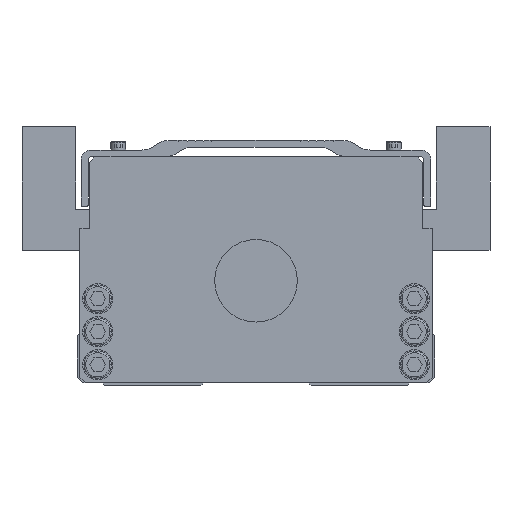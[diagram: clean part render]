
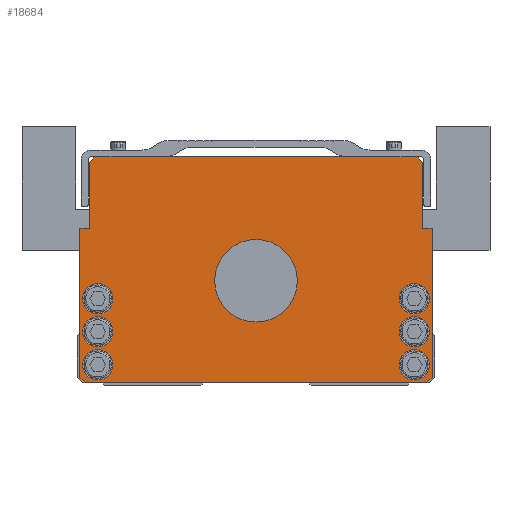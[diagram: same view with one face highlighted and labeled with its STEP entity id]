
A CAD part, front view. The second image highlights one B-rep face of the part: STEP entity #18684.
In plain terms, the highlighted planar face has unit normal (0, -1, 0).
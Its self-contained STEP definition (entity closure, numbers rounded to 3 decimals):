
#6554=EDGE_CURVE('',#9340,#13200,#19490,.T.);
#7284=VERTEX_POINT('',#20287);
#7496=EDGE_CURVE('',#17408,#7542,#20544,.T.);
#7542=VERTEX_POINT('',#20594);
#8048=EDGE_CURVE('',#17514,#16604,#21155,.T.);
#8078=VERTEX_POINT('',#21194);
#8092=EDGE_CURVE('',#17434,#13444,#21209,.T.);
#8252=VERTEX_POINT('',#21382);
#8260=EDGE_CURVE('',#17886,#8252,#21392,.T.);
#8360=VERTEX_POINT('',#21505);
#8414=VERTEX_POINT('',#21565);
#8482=VERTEX_POINT('',#21641);
#8978=EDGE_CURVE('',#11430,#17434,#22191,.T.);
#9004=VERTEX_POINT('',#22221);
#9006=EDGE_CURVE('',#16446,#11430,#22223,.T.);
#9076=EDGE_CURVE('',#8482,#13376,#22309,.T.);
#9340=VERTEX_POINT('',#22608);
#9346=EDGE_CURVE('',#13444,#8078,#22614,.T.);
#9924=EDGE_CURVE('',#13200,#11876,#23264,.T.);
#10094=EDGE_CURVE('',#13466,#9004,#23453,.T.);
#10352=EDGE_CURVE('',#13166,#15318,#23737,.T.);
#11398=EDGE_CURVE('',#9004,#7284,#24920,.T.);
#11430=VERTEX_POINT('',#24953);
#11568=VERTEX_POINT('',#25112);
#11876=VERTEX_POINT('',#25446);
#12994=VERTEX_POINT('',#26677);
#13010=EDGE_CURVE('',#8252,#17886,#26693,.T.);
#13012=EDGE_CURVE('',#7542,#17408,#26695,.T.);
#13166=VERTEX_POINT('',#26868);
#13200=VERTEX_POINT('',#26907);
#13376=VERTEX_POINT('',#27115);
#13444=VERTEX_POINT('',#27191);
#13466=VERTEX_POINT('',#27217);
#13474=EDGE_CURVE('',#15112,#16446,#27226,.T.);
#13542=EDGE_CURVE('',#14398,#8360,#27298,.T.);
#13864=EDGE_CURVE('',#8414,#15112,#27649,.T.);
#14164=EDGE_CURVE('',#13376,#8482,#27976,.T.);
#14174=VERTEX_POINT('',#27987);
#14266=EDGE_CURVE('',#16604,#17514,#28084,.T.);
#14398=VERTEX_POINT('',#28228);
#14956=EDGE_CURVE('',#11568,#8414,#28849,.T.);
#15112=VERTEX_POINT('',#29017);
#15318=VERTEX_POINT('',#29255);
#16128=EDGE_CURVE('',#15318,#13166,#30149,.T.);
#16446=VERTEX_POINT('',#30499);
#16510=EDGE_CURVE('',#8360,#14398,#30571,.T.);
#16604=VERTEX_POINT('',#30682);
#17192=EDGE_CURVE('',#7284,#11568,#31332,.T.);
#17408=VERTEX_POINT('',#31573);
#17434=VERTEX_POINT('',#31601);
#17514=VERTEX_POINT('',#31691);
#17860=EDGE_CURVE('',#8078,#9340,#32067,.T.);
#17886=VERTEX_POINT('',#32097);
#18372=EDGE_CURVE('',#12994,#14174,#32635,.T.);
#18684=ADVANCED_FACE('',(#32981,#32982,#32983,#32984,#32985,#32986,#32987,#32988),#32989,.T.);
#19146=EDGE_CURVE('',#11876,#13466,#33509,.T.);
#19260=EDGE_CURVE('',#14174,#12994,#33636,.T.);
#19490=LINE('',#33905,#33906);
#20287=CARTESIAN_POINT('',(-33.25,0.0,83.0));
#20544=CIRCLE('',#35361,5.5);
#20594=CARTESIAN_POINT('',(-52.0,0.0,19.5));
#21155=CIRCLE('',#36219,5.5);
#21194=CARTESIAN_POINT('',(-62.0,0.0,1.0));
#21209=LINE('',#36292,#36293);
#21382=CARTESIAN_POINT('',(-15.0,0.0,38.0));
#21392=CIRCLE('',#36535,15.0);
#21505=CARTESIAN_POINT('',(52.0,0.0,19.5));
#21565=CARTESIAN_POINT('',(58.5,0.0,83.0));
#21641=CARTESIAN_POINT('',(-52.0,0.0,7.5));
#22191=LINE('',#37622,#37623);
#22221=CARTESIAN_POINT('',(-58.5,0.0,83.0));
#22223=LINE('',#37661,#37662);
#22309=CIRCLE('',#37782,5.5);
#22608=CARTESIAN_POINT('',(-64.0,0.0,3.0));
#22614=LINE('',#38194,#38195);
#23264=LINE('',#39077,#39078);
#23453=LINE('',#39339,#39340);
#23737=CIRCLE('',#39725,5.5);
#24920=LINE('',#41344,#41345);
#24953=CARTESIAN_POINT('',(64.0,0.0,57.0));
#25112=CARTESIAN_POINT('',(33.25,0.0,83.0));
#25446=CARTESIAN_POINT('',(-60.5,0.0,57.0));
#26677=CARTESIAN_POINT('',(63.0,0.0,7.5));
#26693=CIRCLE('',#43858,15.0);
#26695=CIRCLE('',#43861,5.5);
#26868=CARTESIAN_POINT('',(-52.0,0.0,31.5));
#26907=CARTESIAN_POINT('',(-64.0,0.0,57.0));
#27115=CARTESIAN_POINT('',(-63.0,0.0,7.5));
#27191=CARTESIAN_POINT('',(62.0,0.0,1.0));
#27217=CARTESIAN_POINT('',(-60.5,0.0,81.0));
#27226=LINE('',#44606,#44607);
#27298=CIRCLE('',#44707,5.5);
#27649=LINE('',#45189,#45190);
#27976=CIRCLE('',#45635,5.5);
#27987=CARTESIAN_POINT('',(52.0,0.0,7.5));
#28084=CIRCLE('',#45781,5.5);
#28228=CARTESIAN_POINT('',(63.0,0.0,19.5));
#28849=LINE('',#46812,#46813);
#29017=CARTESIAN_POINT('',(60.5,0.0,81.0));
#29255=CARTESIAN_POINT('',(-63.0,0.0,31.5));
#30149=CIRCLE('',#48669,5.5);
#30499=CARTESIAN_POINT('',(60.5,0.0,57.0));
#30571=CIRCLE('',#49266,5.5);
#30682=CARTESIAN_POINT('',(52.0,0.0,31.5));
#31332=LINE('',#50312,#50313);
#31573=CARTESIAN_POINT('',(-63.0,0.0,19.5));
#31601=CARTESIAN_POINT('',(64.0,0.0,3.0));
#31691=CARTESIAN_POINT('',(63.0,0.0,31.5));
#32067=LINE('',#51318,#51319);
#32097=CARTESIAN_POINT('',(15.0,0.0,38.0));
#32635=CIRCLE('',#52102,5.5);
#32981=FACE_BOUND('',#52565,.T.);
#32982=FACE_BOUND('',#52566,.T.);
#32983=FACE_BOUND('',#52567,.T.);
#32984=FACE_BOUND('',#52568,.T.);
#32985=FACE_BOUND('',#52569,.T.);
#32986=FACE_BOUND('',#52570,.T.);
#32987=FACE_BOUND('',#52571,.T.);
#32988=FACE_OUTER_BOUND('',#52572,.T.);
#32989=PLANE('',#52573);
#33509=LINE('',#53276,#53277);
#33636=CIRCLE('',#53465,5.5);
#33905=CARTESIAN_POINT('',(-64.0,0.0,57.0));
#33906=VECTOR('',#53749,1.0);
#35361=AXIS2_PLACEMENT_3D('',#54986,#54987,#54988);
#36219=AXIS2_PLACEMENT_3D('',#55621,#55622,#55623);
#36292=CARTESIAN_POINT('',(62.0,0.0,1.0));
#36293=VECTOR('',#55709,1.);
#36535=AXIS2_PLACEMENT_3D('',#55897,#55898,#55899);
#37622=CARTESIAN_POINT('',(64.0,0.0,3.0));
#37623=VECTOR('',#56836,1.0);
#37661=CARTESIAN_POINT('',(64.0,0.0,57.0));
#37662=VECTOR('',#56879,1.0);
#37782=AXIS2_PLACEMENT_3D('',#57030,#57031,#57032);
#38194=CARTESIAN_POINT('',(-62.0,0.0,1.0));
#38195=VECTOR('',#57326,1.0);
#39077=CARTESIAN_POINT('',(-60.5,0.0,57.0));
#39078=VECTOR('',#58083,1.0);
#39339=CARTESIAN_POINT('',(-58.5,0.0,83.0));
#39340=VECTOR('',#58281,1.);
#39725=AXIS2_PLACEMENT_3D('',#58595,#58596,#58597);
#41344=CARTESIAN_POINT('',(58.5,0.0,83.0));
#41345=VECTOR('',#60076,1.0);
#43858=AXIS2_PLACEMENT_3D('',#62010,#62011,#62012);
#43861=AXIS2_PLACEMENT_3D('',#62013,#62014,#62015);
#44606=CARTESIAN_POINT('',(60.5,0.0,57.0));
#44607=VECTOR('',#62718,1.0);
#44707=AXIS2_PLACEMENT_3D('',#62788,#62789,#62790);
#45189=CARTESIAN_POINT('',(60.5,0.0,81.0));
#45190=VECTOR('',#63161,1.);
#45635=AXIS2_PLACEMENT_3D('',#63501,#63502,#63503);
#45781=AXIS2_PLACEMENT_3D('',#63602,#63603,#63604);
#46812=CARTESIAN_POINT('',(58.5,0.0,83.0));
#46813=VECTOR('',#64476,1.0);
#48669=AXIS2_PLACEMENT_3D('',#65997,#65998,#65999);
#49266=AXIS2_PLACEMENT_3D('',#66479,#66480,#66481);
#50312=CARTESIAN_POINT('',(58.5,0.0,83.0));
#50313=VECTOR('',#67364,1.0);
#51318=CARTESIAN_POINT('',(-64.0,0.0,3.0));
#51319=VECTOR('',#68139,1.);
#52102=AXIS2_PLACEMENT_3D('',#68766,#68767,#68768);
#52565=EDGE_LOOP('',(#69186,#69187));
#52566=EDGE_LOOP('',(#69188,#69189));
#52567=EDGE_LOOP('',(#69190,#69191));
#52568=EDGE_LOOP('',(#69192,#69193));
#52569=EDGE_LOOP('',(#69194,#69195));
#52570=EDGE_LOOP('',(#69196,#69197));
#52571=EDGE_LOOP('',(#69198,#69199));
#52572=EDGE_LOOP('',(#69200,#69201,#69202,#69203,#69204,#69205,#69206,#69207,#69208,#69209,#69210,#69211,#69212,#69213));
#52573=AXIS2_PLACEMENT_3D('',#69214,#69215,#69216);
#53276=CARTESIAN_POINT('',(-60.5,0.0,81.0));
#53277=VECTOR('',#69860,1.0);
#53465=AXIS2_PLACEMENT_3D('',#69999,#70000,#70001);
#53749=DIRECTION('',(0.0,0.0,1.0));
#54986=CARTESIAN_POINT('',(-57.5,0.0,19.5));
#54987=DIRECTION('',(-0.0,1.0,0.0));
#54988=DIRECTION('',(1.0,0.0,0.0));
#55621=CARTESIAN_POINT('',(57.5,0.0,31.5));
#55622=DIRECTION('',(-0.0,1.0,0.0));
#55623=DIRECTION('',(1.0,0.0,0.0));
#55709=DIRECTION('',(-0.707,0.0,-0.707));
#55897=CARTESIAN_POINT('',(0.0,0.0,38.0));
#55898=DIRECTION('',(-0.0,1.0,0.0));
#55899=DIRECTION('',(1.0,0.0,0.0));
#56836=DIRECTION('',(-0.0,0.0,-1.0));
#56879=DIRECTION('',(1.0,0.0,0.0));
#57030=CARTESIAN_POINT('',(-57.5,0.0,7.5));
#57031=DIRECTION('',(-0.0,1.0,0.0));
#57032=DIRECTION('',(1.0,0.0,0.0));
#57326=DIRECTION('',(-1.0,0.0,-0.0));
#58083=DIRECTION('',(1.0,0.0,0.0));
#58281=DIRECTION('',(0.707,0.0,0.707));
#58595=CARTESIAN_POINT('',(-57.5,0.0,31.5));
#58596=DIRECTION('',(-0.0,1.0,0.0));
#58597=DIRECTION('',(1.0,0.0,0.0));
#60076=DIRECTION('',(1.0,0.0,0.0));
#62010=CARTESIAN_POINT('',(0.0,0.0,38.0));
#62011=DIRECTION('',(-0.0,1.0,0.0));
#62012=DIRECTION('',(1.0,0.0,0.0));
#62013=CARTESIAN_POINT('',(-57.5,0.0,19.5));
#62014=DIRECTION('',(-0.0,1.0,0.0));
#62015=DIRECTION('',(1.0,0.0,0.0));
#62718=DIRECTION('',(-0.0,0.0,-1.0));
#62788=CARTESIAN_POINT('',(57.5,0.0,19.5));
#62789=DIRECTION('',(-0.0,1.0,0.0));
#62790=DIRECTION('',(1.0,0.0,0.0));
#63161=DIRECTION('',(0.707,0.0,-0.707));
#63501=CARTESIAN_POINT('',(-57.5,0.0,7.5));
#63502=DIRECTION('',(-0.0,1.0,0.0));
#63503=DIRECTION('',(1.0,0.0,0.0));
#63602=CARTESIAN_POINT('',(57.5,0.0,31.5));
#63603=DIRECTION('',(-0.0,1.0,0.0));
#63604=DIRECTION('',(1.0,0.0,0.0));
#64476=DIRECTION('',(1.0,0.0,0.0));
#65997=CARTESIAN_POINT('',(-57.5,0.0,31.5));
#65998=DIRECTION('',(-0.0,1.0,0.0));
#65999=DIRECTION('',(1.0,0.0,0.0));
#66479=CARTESIAN_POINT('',(57.5,0.0,19.5));
#66480=DIRECTION('',(-0.0,1.0,0.0));
#66481=DIRECTION('',(1.0,0.0,0.0));
#67364=DIRECTION('',(1.0,0.0,0.0));
#68139=DIRECTION('',(-0.707,0.0,0.707));
#68766=CARTESIAN_POINT('',(57.5,0.0,7.5));
#68767=DIRECTION('',(-0.0,1.0,0.0));
#68768=DIRECTION('',(1.0,0.0,0.0));
#69186=ORIENTED_EDGE('',*,*,#8260,.T.);
#69187=ORIENTED_EDGE('',*,*,#13010,.T.);
#69188=ORIENTED_EDGE('',*,*,#8048,.T.);
#69189=ORIENTED_EDGE('',*,*,#14266,.T.);
#69190=ORIENTED_EDGE('',*,*,#13542,.T.);
#69191=ORIENTED_EDGE('',*,*,#16510,.T.);
#69192=ORIENTED_EDGE('',*,*,#18372,.T.);
#69193=ORIENTED_EDGE('',*,*,#19260,.T.);
#69194=ORIENTED_EDGE('',*,*,#10352,.T.);
#69195=ORIENTED_EDGE('',*,*,#16128,.T.);
#69196=ORIENTED_EDGE('',*,*,#13012,.T.);
#69197=ORIENTED_EDGE('',*,*,#7496,.T.);
#69198=ORIENTED_EDGE('',*,*,#9076,.T.);
#69199=ORIENTED_EDGE('',*,*,#14164,.T.);
#69200=ORIENTED_EDGE('',*,*,#17860,.F.);
#69201=ORIENTED_EDGE('',*,*,#9346,.F.);
#69202=ORIENTED_EDGE('',*,*,#8092,.F.);
#69203=ORIENTED_EDGE('',*,*,#8978,.F.);
#69204=ORIENTED_EDGE('',*,*,#9006,.F.);
#69205=ORIENTED_EDGE('',*,*,#13474,.F.);
#69206=ORIENTED_EDGE('',*,*,#13864,.F.);
#69207=ORIENTED_EDGE('',*,*,#14956,.F.);
#69208=ORIENTED_EDGE('',*,*,#17192,.F.);
#69209=ORIENTED_EDGE('',*,*,#11398,.F.);
#69210=ORIENTED_EDGE('',*,*,#10094,.F.);
#69211=ORIENTED_EDGE('',*,*,#19146,.F.);
#69212=ORIENTED_EDGE('',*,*,#9924,.F.);
#69213=ORIENTED_EDGE('',*,*,#6554,.F.);
#69214=CARTESIAN_POINT('',(0.,0.0,41.562));
#69215=DIRECTION('',(0.0,-1.0,0.0));
#69216=DIRECTION('',(1.0,0.0,0.0));
#69860=DIRECTION('',(0.0,0.0,1.0));
#69999=CARTESIAN_POINT('',(57.5,0.0,7.5));
#70000=DIRECTION('',(-0.0,1.0,0.0));
#70001=DIRECTION('',(1.0,0.0,0.0));
